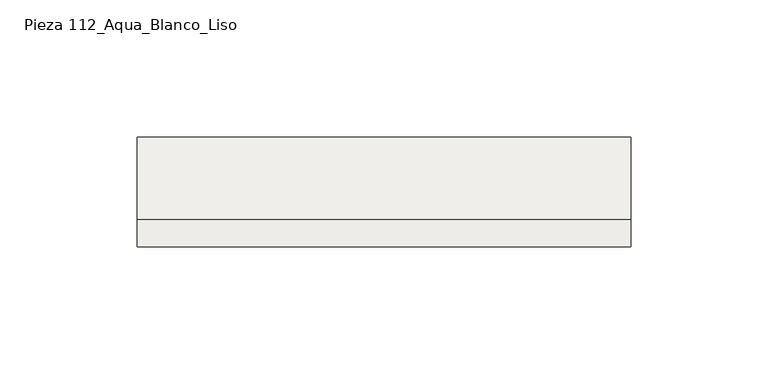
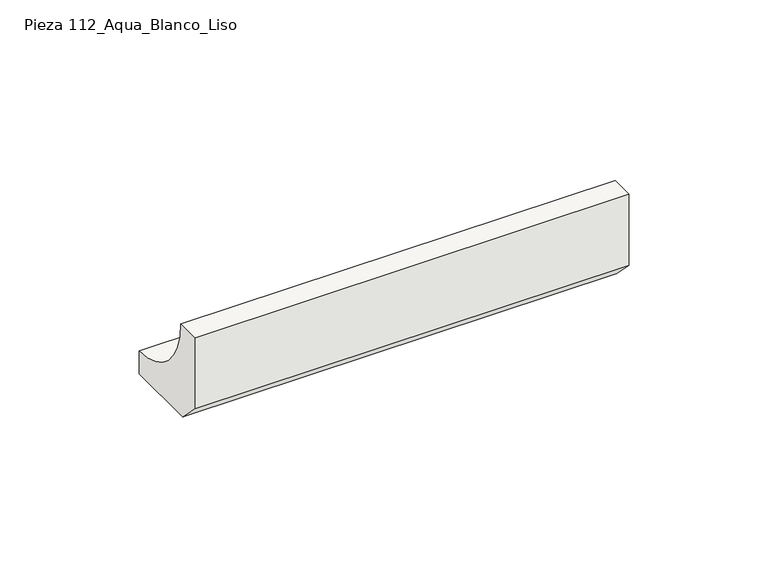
"""IFC4 building model written with IfcOpenShell, lengths in millimetres: slab geometry, ROSA GRES_112 : Pieza 112_Aqua_Blanco_Liso."""

from ifc_helpers import new_model, si_unit, point, frame, frame_2d, origin, place, context, project, spatial, polyline, circle_curve, trimmed, segment, composite_curve, outline, extrude, source, transform, mapped, element, save


def pieza_112_aqua_blanco_liso_1accc0e3(model_context):
    return source(origin(), model_context, "Body", "SweptSolid", [
        extrude(outline(composite_curve([segment(polyline([(-9.9734114, 8.7114978), (-9.9734114, 40.0), (0.0, 40.0)]), True, "CONTINUOUS"), segment(trimmed(circle_curve(frame_2d((30.0221432, 39.9955547)), 30.0221435), [point((0.0, 40.0))], [point((30.0265886, 9.9734114))], True, "CARTESIAN"), True, "CONTINUOUS"), segment(polyline([(30.0265886, 9.9734114), (30.0265886, 0.0), (-1.2619137, 0.0), (-9.9734114, 8.7114978)]), True, "CONTINUOUS")], self_intersect=False)), frame((0.0, 0.0, 0.0), z_axis=(1.0, 0.0, 0.0), x_axis=(0.0, 1.0, 0.0)), (0.0, 0.0, 1.0), 180.1700289),
    ])


if __name__ == "__main__":
    model = new_model("IFC4")
    model_context = context("Model", 3, world=origin())
    ifc_project = project(units=[si_unit("LENGTHUNIT", "METRE", prefix="MILLI")], contexts=[model_context])
    site = spatial("IfcSite", under=ifc_project)
    building = spatial("IfcBuilding", under=site)
    placement = place(None, origin())
    pieza_112_aqua_blanco_liso_shape = pieza_112_aqua_blanco_liso_1accc0e3(model_context)
    element("IfcSlab", 1, ObjectType="ROSA GRES_112 : Pieza 112_Aqua_Blanco_Liso", at=placement, inside=building, context=model_context, shape_type="MappedRepresentation", body=[
        mapped(pieza_112_aqua_blanco_liso_shape, transform((0.0, 0.0, 0.0), x_axis=(1.0, 0.0, 0.0), y_axis=(0.0, 1.0, 0.0), z_axis=(0.0, 0.0, 1.0))),
    ])
    save(model, "model.ifc")
